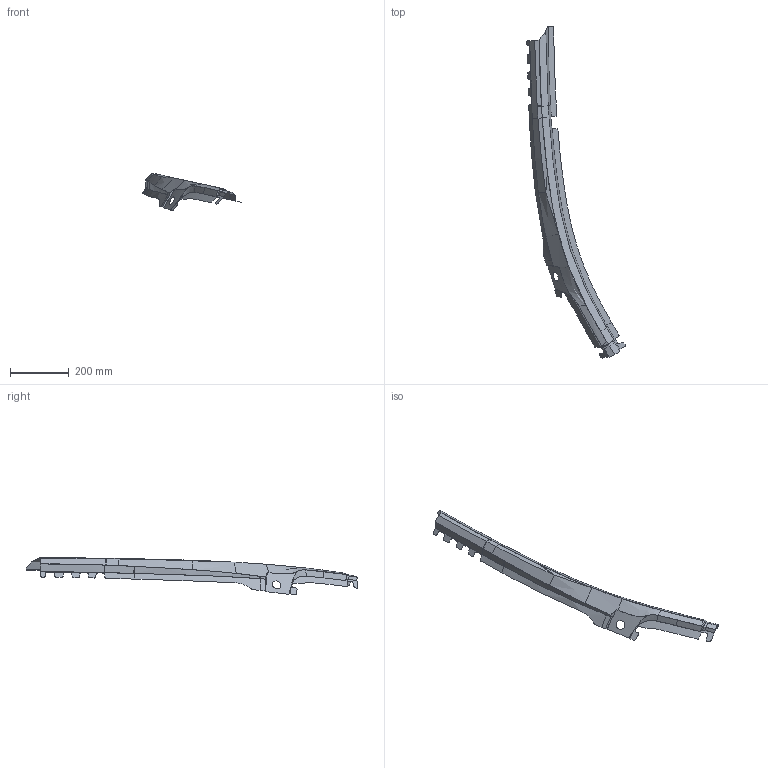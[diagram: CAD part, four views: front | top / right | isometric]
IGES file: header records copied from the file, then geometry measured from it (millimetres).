
Start section: START IGES DATA FILE
Global section: file name: MSTEP_demo.igs; native system: DYNAFORM VER.5.2,DYNAFORM IGES TRANSLATOR, ENGINEERING TECHNOLOGY ASSOCIATES, INC.; preprocessor: 980406; date: 051025.142026; units: millimetre
Bounding box: 336.95 x 1133.92 x 126.2 mm (x, y, z)
Surface area: 183992.8 mm2 (no closed solid volume)
Topology: 0 solids, 0 shells, 58 faces, 1032 edges, 1032 vertices
Faces by surface type: bspline 58
